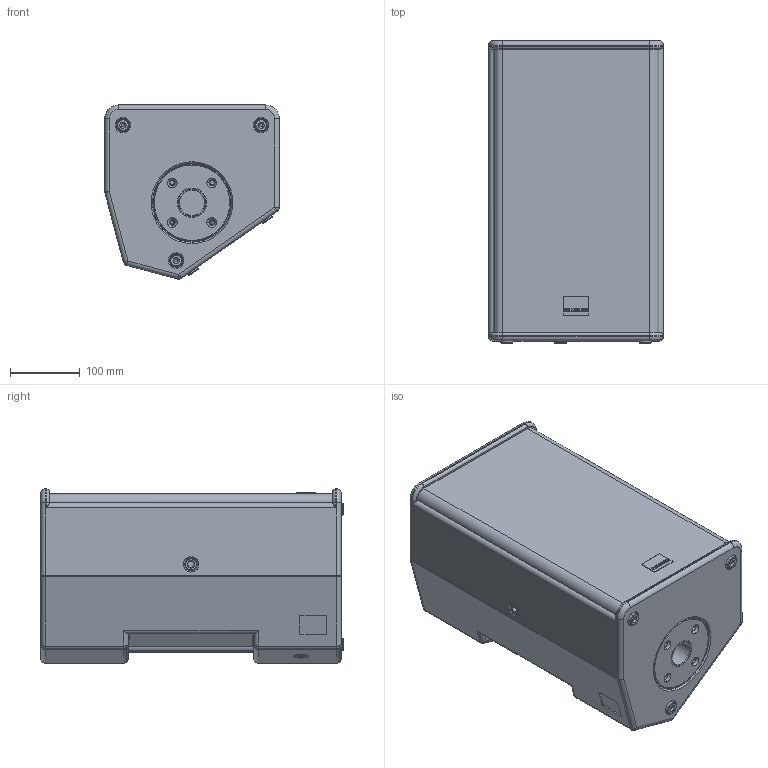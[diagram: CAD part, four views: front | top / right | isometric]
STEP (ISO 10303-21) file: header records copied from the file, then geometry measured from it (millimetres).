
FILE_DESCRIPTION (( 'STEP AP203' ), '1' );
FILE_NAME ('Seeburg_TSM8.STEP', '2012-10-17T11:25:10', ( 'Fabian' ), ( '' ), 'SwSTEP 2.0', 'SolidWorks 2009', '' );
FILE_SCHEMA (( 'CONFIG_CONTROL_DESIGN' ));
Length unit declared in the file: millimetre
Products named in the file (2): TSM8; Seeburg_TSM8
Assembly tree (1 placements, depth 2):
  Seeburg_TSM8
    TSM8
Bounding box: 250 x 433 x 249.43 mm (x, y, z)
Volume: 5394343.5 mm3; surface area: 1040614.4 mm2
Topology: 25 solids, 25 shells, 740 faces, 1798 edges, 1148 vertices
Faces by surface type: cylinder 340, plane 227, cone 96, torus 56, sphere 19, bspline 2
Entity records: 27289 total; most frequent: CARTESIAN_POINT 9367, DIRECTION 3869, ORIENTED_EDGE 3574, EDGE_CURVE 1787, AXIS2_PLACEMENT_3D 1520, VERTEX_POINT 1143, EDGE_LOOP 876, VECTOR 829
